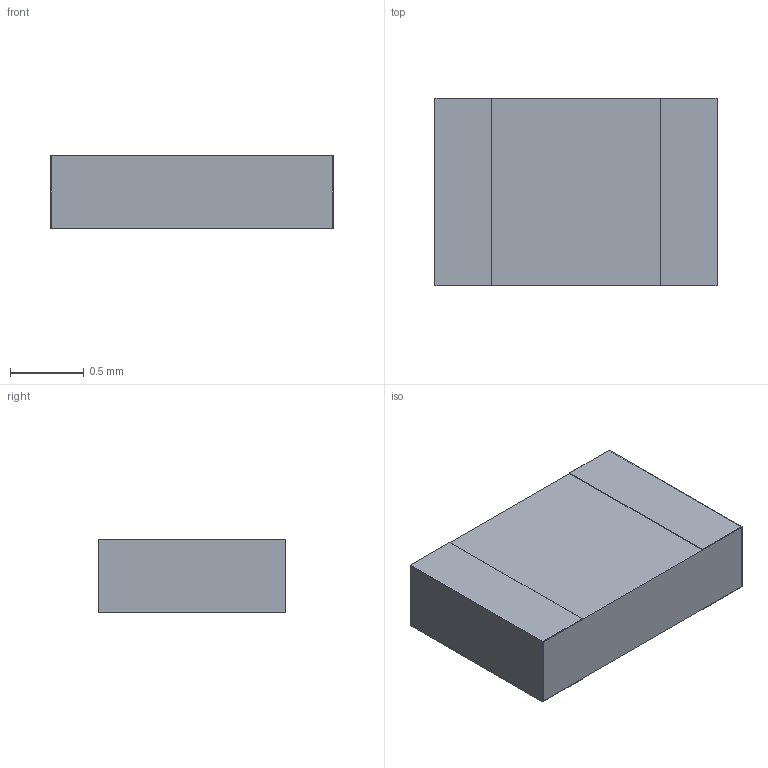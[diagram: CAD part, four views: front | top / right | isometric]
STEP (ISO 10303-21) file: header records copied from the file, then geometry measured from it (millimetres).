
FILE_DESCRIPTION(/* description */ (''),/* implementation_level */ '2;1');
FILE_NAME(/* name */ 'S:\DOCUMENT\AUTOCAD\3D_Modèles\10_3D-pour-VISHAY-COM\P\P0805_B-or-N-or-G.stp',/* time_stamp */ '2018-01-31T09:55:19+01:00',/* author */ ('dparmentier'),/* organization */ ('unknown'),/* preprocessor_version */ 'ST-DEVELOPER v17',/* originating_system */ 'Autodesk Inventor 2018',/* authorisation */ '');
FILE_SCHEMA (('AUTOMOTIVE_DESIGN { 1 0 10303 214 3 1 1 }'));
Length unit declared in the file: millimetre
Products named in the file (1): P0805_B-or-N-or-G
Bounding box: 1.91 x 1.27 x 0.5 mm (x, y, z)
Volume: 1.2 mm3; surface area: 14.3 mm2
Topology: 3 solids, 3 shells, 26 faces, 60 edges, 40 vertices
Faces by surface type: plane 26
Entity records: 775 total; most frequent: CARTESIAN_POINT 127, ORIENTED_EDGE 120, DIRECTION 114, LINE 60, VECTOR 60, EDGE_CURVE 60, VERTEX_POINT 40, AXIS2_PLACEMENT_3D 27
